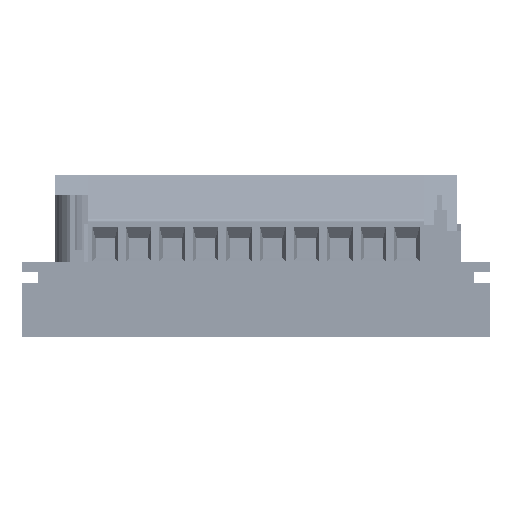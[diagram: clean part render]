
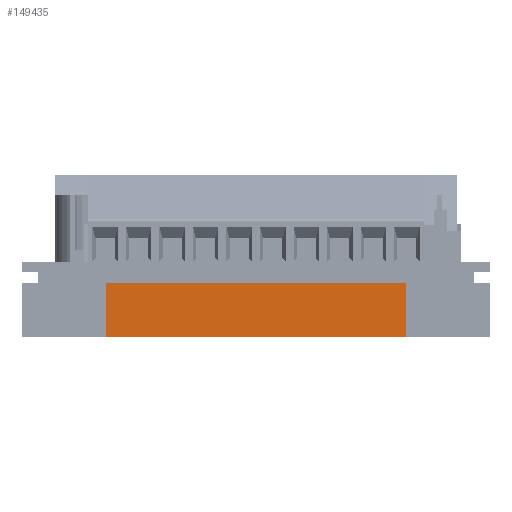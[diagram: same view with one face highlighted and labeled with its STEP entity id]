
A CAD part, front view. The second image highlights one B-rep face of the part: STEP entity #149435.
In plain terms, the highlighted planar face has unit normal (0, -1, 0).
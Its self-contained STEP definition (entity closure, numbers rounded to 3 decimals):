
#149435 = ADVANCED_FACE('',(#149436),#149470,.F.);
#149436 = FACE_BOUND('',#149437,.F.);
#149437 = EDGE_LOOP('',(#149438,#149448,#149456,#149464));
#149438 = ORIENTED_EDGE('',*,*,#149439,.T.);
#149439 = EDGE_CURVE('',#149440,#149442,#149444,.T.);
#149440 = VERTEX_POINT('',#149441);
#149441 = CARTESIAN_POINT('',(-22.4,-3.125,0.));
#149442 = VERTEX_POINT('',#149443);
#149443 = CARTESIAN_POINT('',(-22.4,-3.125,8.));
#149444 = LINE('',#149445,#149446);
#149445 = CARTESIAN_POINT('',(-22.4,-3.125,0.));
#149446 = VECTOR('',#149447,1.);
#149447 = DIRECTION('',(0.,0.,1.));
#149448 = ORIENTED_EDGE('',*,*,#149449,.T.);
#149449 = EDGE_CURVE('',#149442,#149450,#149452,.T.);
#149450 = VERTEX_POINT('',#149451);
#149451 = CARTESIAN_POINT('',(22.4,-3.125,8.));
#149452 = LINE('',#149453,#149454);
#149453 = CARTESIAN_POINT('',(-22.4,-3.125,8.));
#149454 = VECTOR('',#149455,1.);
#149455 = DIRECTION('',(1.,0.,0.));
#149456 = ORIENTED_EDGE('',*,*,#149457,.F.);
#149457 = EDGE_CURVE('',#149458,#149450,#149460,.T.);
#149458 = VERTEX_POINT('',#149459);
#149459 = CARTESIAN_POINT('',(22.4,-3.125,0.));
#149460 = LINE('',#149461,#149462);
#149461 = CARTESIAN_POINT('',(22.4,-3.125,0.));
#149462 = VECTOR('',#149463,1.);
#149463 = DIRECTION('',(0.,0.,1.));
#149464 = ORIENTED_EDGE('',*,*,#149465,.F.);
#149465 = EDGE_CURVE('',#149440,#149458,#149466,.T.);
#149466 = LINE('',#149467,#149468);
#149467 = CARTESIAN_POINT('',(-22.4,-3.125,0.));
#149468 = VECTOR('',#149469,1.);
#149469 = DIRECTION('',(1.,0.,0.));
#149470 = PLANE('',#149471);
#149471 = AXIS2_PLACEMENT_3D('',#149472,#149473,#149474);
#149472 = CARTESIAN_POINT('',(-22.4,-3.125,0.));
#149473 = DIRECTION('',(0.,1.,0.));
#149474 = DIRECTION('',(1.,0.,0.));
